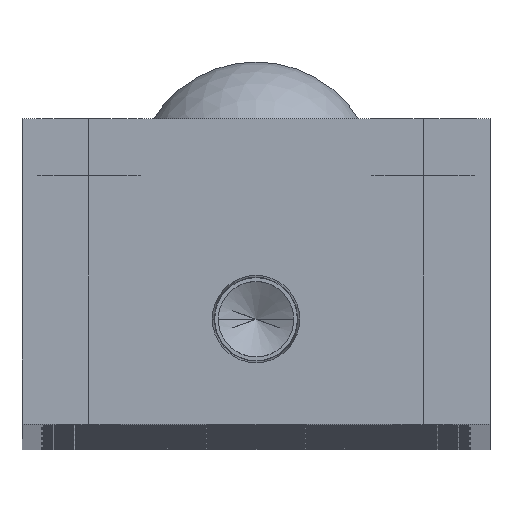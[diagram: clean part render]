
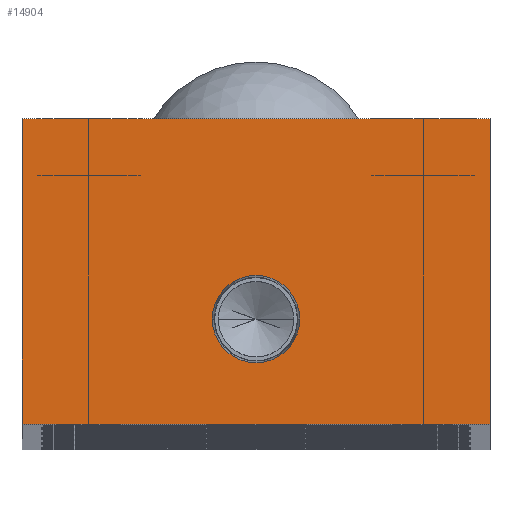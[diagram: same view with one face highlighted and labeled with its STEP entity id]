
A CAD part, top view. The second image highlights one B-rep face of the part: STEP entity #14904.
In plain terms, the highlighted planar face has unit normal (0, 0, 1).
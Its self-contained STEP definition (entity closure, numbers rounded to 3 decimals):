
#159 = DIRECTION ( 'NONE',  ( 1., 0., 0. ) ) ;
#1139 = DIRECTION ( 'NONE',  ( 1., 0., 0. ) ) ;
#3398 = LINE ( 'NONE', #28670, #17668 ) ;
#3544 = VERTEX_POINT ( 'NONE', #23199 ) ;
#4925 = LINE ( 'NONE', #31295, #34302 ) ;
#5479 = EDGE_CURVE ( 'NONE', #25222, #11122, #22611, .T. ) ;
#5604 = DIRECTION ( 'NONE',  ( -1., 0., 0. ) ) ;
#5814 = ORIENTED_EDGE ( 'NONE', *, *, #9530, .T. ) ;
#5914 = LINE ( 'NONE', #18193, #20202 ) ;
#5939 = VERTEX_POINT ( 'NONE', #9730 ) ;
#6513 = EDGE_CURVE ( 'NONE', #3544, #5939, #11376, .T. ) ;
#7019 = CARTESIAN_POINT ( 'NONE',  ( 0., 11., 0. ) ) ;
#8719 = FACE_BOUND ( 'NONE', #36275, .T. ) ;
#9530 = EDGE_CURVE ( 'NONE', #5939, #11169, #5914, .T. ) ;
#9730 = CARTESIAN_POINT ( 'NONE',  ( -24.5, 0., 0. ) ) ;
#9880 = DIRECTION ( 'NONE',  ( 1., 0., 0. ) ) ;
#9950 = ORIENTED_EDGE ( 'NONE', *, *, #5479, .F. ) ;
#11122 = VERTEX_POINT ( 'NONE', #14952 ) ;
#11169 = VERTEX_POINT ( 'NONE', #26680 ) ;
#11204 = PLANE ( 'NONE',  #20123 ) ;
#11376 = LINE ( 'NONE', #14528, #25667 ) ;
#12294 = FACE_OUTER_BOUND ( 'NONE', #28278, .T. ) ;
#13073 = VERTEX_POINT ( 'NONE', #14513 ) ;
#13409 = CARTESIAN_POINT ( 'NONE',  ( -4.574, 11., 0. ) ) ;
#14513 = CARTESIAN_POINT ( 'NONE',  ( 24.5, 32., 0. ) ) ;
#14528 = CARTESIAN_POINT ( 'NONE',  ( -24.5, 0., 0. ) ) ;
#14904 = ADVANCED_FACE ( 'NONE', ( #8719, #12294 ), #11204, .F. ) ;
#14952 = CARTESIAN_POINT ( 'NONE',  ( 4.574, 11., 0. ) ) ;
#16933 = CARTESIAN_POINT ( 'NONE',  ( 0., 0., 0. ) ) ;
#17203 = DIRECTION ( 'NONE',  ( 0., 0., 1. ) ) ;
#17668 = VECTOR ( 'NONE', #20193, 1000. ) ;
#18193 = CARTESIAN_POINT ( 'NONE',  ( 24.5, 0., 0. ) ) ;
#19304 = CIRCLE ( 'NONE', #23900, 4.574 ) ;
#20123 = AXIS2_PLACEMENT_3D ( 'NONE', #16933, #22673, #5604 ) ;
#20193 = DIRECTION ( 'NONE',  ( 0., 1., 0. ) ) ;
#20202 = VECTOR ( 'NONE', #1139, 1000. ) ;
#20303 = DIRECTION ( 'NONE',  ( 0., -1., 0. ) ) ;
#20535 = EDGE_CURVE ( 'NONE', #11122, #25222, #19304, .T. ) ;
#21790 = ORIENTED_EDGE ( 'NONE', *, *, #20535, .F. ) ;
#22611 = CIRCLE ( 'NONE', #35511, 4.574 ) ;
#22673 = DIRECTION ( 'NONE',  ( 0., 0., -1. ) ) ;
#23199 = CARTESIAN_POINT ( 'NONE',  ( -24.5, 32., 0. ) ) ;
#23900 = AXIS2_PLACEMENT_3D ( 'NONE', #7019, #26988, #9880 ) ;
#25222 = VERTEX_POINT ( 'NONE', #13409 ) ;
#25667 = VECTOR ( 'NONE', #20303, 1000. ) ;
#25818 = DIRECTION ( 'NONE',  ( -1., 0., 0. ) ) ;
#26680 = CARTESIAN_POINT ( 'NONE',  ( 24.5, 0., 0. ) ) ;
#26969 = ORIENTED_EDGE ( 'NONE', *, *, #31513, .T. ) ;
#26988 = DIRECTION ( 'NONE',  ( 0., 0., 1. ) ) ;
#27371 = ORIENTED_EDGE ( 'NONE', *, *, #6513, .T. ) ;
#27831 = EDGE_CURVE ( 'NONE', #13073, #3544, #4925, .T. ) ;
#28278 = EDGE_LOOP ( 'NONE', ( #27371, #5814, #26969, #34200 ) ) ;
#28670 = CARTESIAN_POINT ( 'NONE',  ( 24.5, 32., 0. ) ) ;
#31295 = CARTESIAN_POINT ( 'NONE',  ( -24.5, 32., 0. ) ) ;
#31513 = EDGE_CURVE ( 'NONE', #11169, #13073, #3398, .T. ) ;
#34200 = ORIENTED_EDGE ( 'NONE', *, *, #27831, .T. ) ;
#34248 = CARTESIAN_POINT ( 'NONE',  ( 0., 11., 0. ) ) ;
#34302 = VECTOR ( 'NONE', #25818, 1000. ) ;
#35511 = AXIS2_PLACEMENT_3D ( 'NONE', #34248, #17203, #159 ) ;
#36275 = EDGE_LOOP ( 'NONE', ( #21790, #9950 ) ) ;
